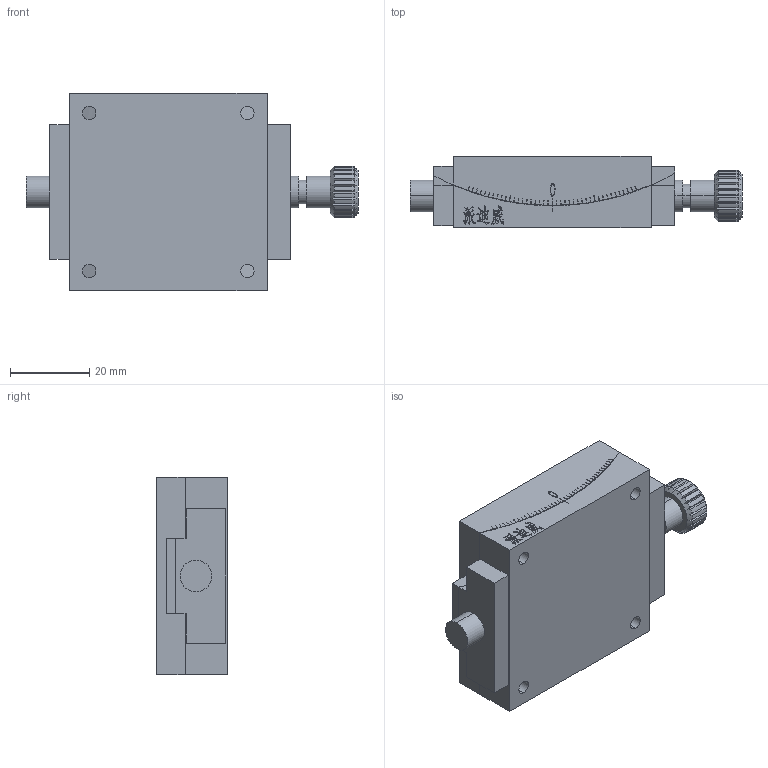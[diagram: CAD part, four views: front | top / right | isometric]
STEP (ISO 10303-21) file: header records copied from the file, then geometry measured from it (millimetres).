
FILE_DESCRIPTION (( 'STEP AP214' ), '1' );
FILE_NAME ('PT-SD350.STEP', '2022-11-06T07:16:47', ( '' ), ( '' ), 'SwSTEP 2.0', 'SolidWorks 2017', '' );
FILE_SCHEMA (( 'AUTOMOTIVE_DESIGN' ));
Length unit declared in the file: millimetre
Products named in the file (3): PT-SD350; PT-SD350-4; PT-SD350-3
Assembly tree (2 placements, depth 2):
  PT-SD350
    PT-SD350-3
    PT-SD350-4
Bounding box: 84 x 18 x 50 mm (x, y, z)
Volume: 50111.4 mm3; surface area: 17502.7 mm2
Topology: 2 solids, 2 shells, 688 faces, 1947 edges, 1275 vertices
Faces by surface type: plane 490, bspline 92, cylinder 76, cone 30
Entity records: 26753 total; most frequent: CARTESIAN_POINT 9253, ORIENTED_EDGE 3842, DIRECTION 3075, EDGE_CURVE 1921, VECTOR 1393, LINE 1393, VERTEX_POINT 1275, AXIS2_PLACEMENT_3D 841
